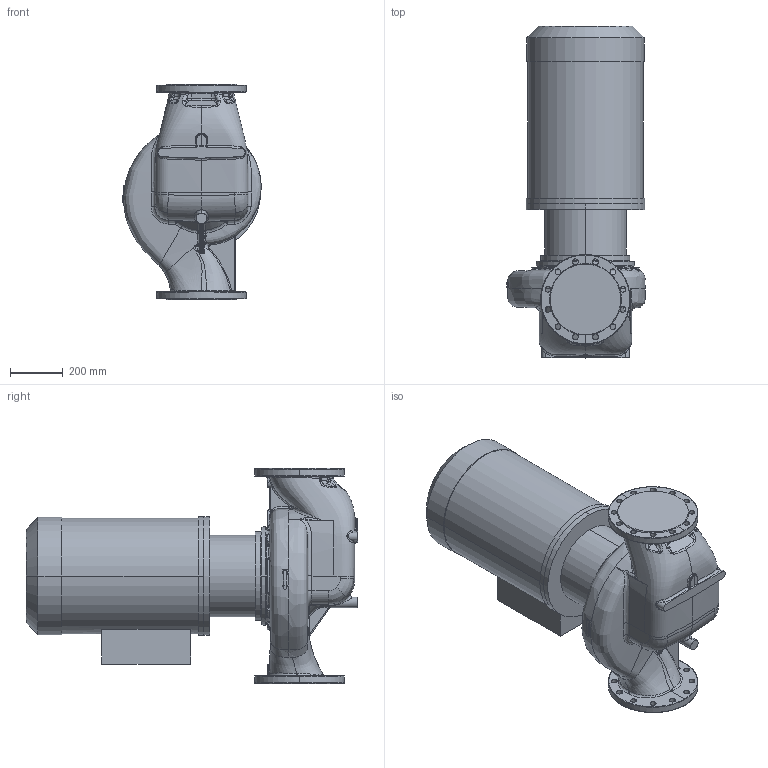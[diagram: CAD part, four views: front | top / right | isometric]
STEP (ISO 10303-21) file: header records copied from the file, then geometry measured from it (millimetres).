
FILE_DESCRIPTION (( 'STEP AP214' ), '1' );
FILE_NAME ('KRL 200-315-4-37.STEP', '2026-04-02T12:54:25', ( '' ), ( '' ), 'SwSTEP 2.0', 'SolidWorks 2016', '' );
FILE_SCHEMA (( 'AUTOMOTIVE_DESIGN' ));
Length unit declared in the file: millimetre
Products named in the file (1): KRL 200-315-4-37
Bounding box: 524.89 x 1260.8 x 820 mm (x, y, z)
Volume: 199657103.1 mm3; surface area: 3623233.9 mm2
Topology: 4 solids, 4 shells, 860 faces, 2107 edges, 1241 vertices
Faces by surface type: bspline 468, cylinder 203, plane 123, cone 36, torus 22, sphere 8
Entity records: 76670 total; most frequent: CARTESIAN_POINT 51247, ORIENTED_EDGE 4138, DIRECTION 2211, EDGE_CURVE 2069, VERTEX_POINT 1240, AXIS2_PLACEMENT_3D 937, B_SPLINE_CURVE_WITH_KNOTS 933, EDGE_LOOP 931
